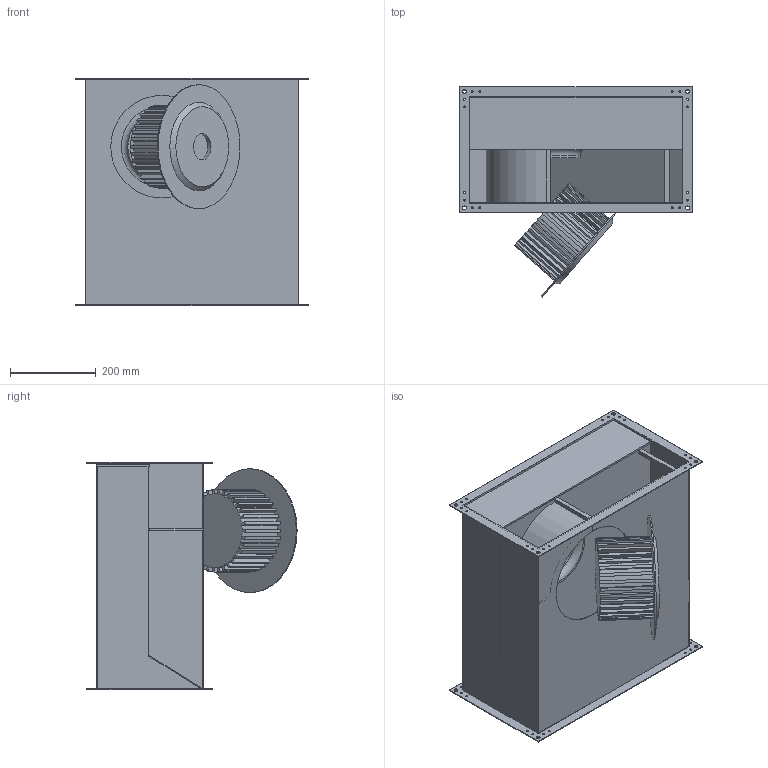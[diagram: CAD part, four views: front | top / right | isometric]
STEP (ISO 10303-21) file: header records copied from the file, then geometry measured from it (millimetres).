
FILE_DESCRIPTION(/* description */ (''),/* implementation_level */ '2;1');
FILE_NAME(/* name */ 'Z:\Output\KVD 225-4-50-25 Ex-06810-010.stp',/* time_stamp */ '2017-05-04T18:56:41+02:00',/* author */ ('Engineering1'),/* organization */ (''),/* preprocessor_version */ 'ST-DEVELOPER v16.5',/* originating_system */ 'Autodesk Inventor 2017',/* authorisation */ '');
FILE_SCHEMA (('AUTOMOTIVE_DESIGN { 1 0 10303 214 3 1 1 }'));
Length unit declared in the file: millimetre
Products named in the file (1): KV-1
Bounding box: 544 x 491.77 x 532 mm (x, y, z)
Volume: 6948778 mm3; surface area: 2714793.3 mm2
Topology: 2 solids, 2 shells, 251 faces, 720 edges, 476 vertices
Faces by surface type: plane 132, cylinder 116, torus 2, cone 1
Full cylindrical faces by diameter (mm): 4.5 x32, 9 x8, 62.139 x1, 120 x1, 160 x1, 240 x1, 290 x1
Entity records: 8205 total; most frequent: DIRECTION 1411, CARTESIAN_POINT 1396, ORIENTED_EDGE 1344, EDGE_CURVE 670, AXIS2_PLACEMENT_3D 489, VERTEX_POINT 474, LINE 433, VECTOR 433
